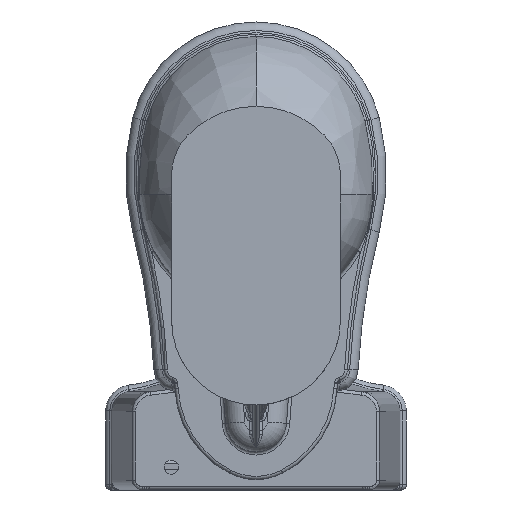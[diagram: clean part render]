
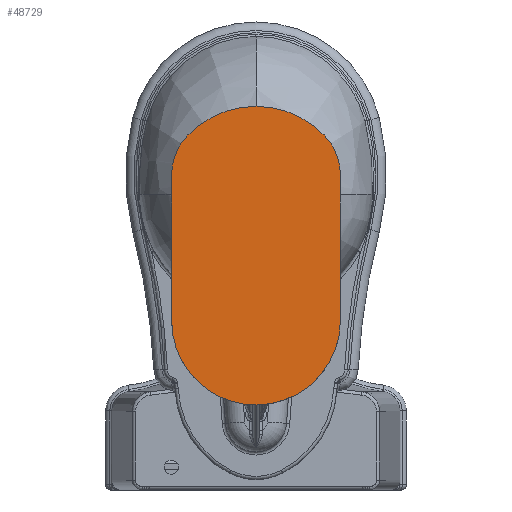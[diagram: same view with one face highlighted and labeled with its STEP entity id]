
A CAD part, front view. The second image highlights one B-rep face of the part: STEP entity #48729.
In plain terms, the highlighted planar face has unit normal (0, -1, 0).
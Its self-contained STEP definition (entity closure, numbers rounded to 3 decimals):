
#410 = CARTESIAN_POINT ( 'NONE',  ( -42.162, -420., 355.5 ) ) ;
#1134 = CARTESIAN_POINT ( 'NONE',  ( -104.853, -420., 417.025 ) ) ;
#3394 = CARTESIAN_POINT ( 'NONE',  ( -76.064, -420., 24.98 ) ) ;
#3866 = VERTEX_POINT ( 'NONE', #6999 ) ;
#4069 = CARTESIAN_POINT ( 'NONE',  ( 104.853, -420., 417.025 ) ) ;
#4114 = VECTOR ( 'NONE', #61659, 1000. ) ;
#4480 = CARTESIAN_POINT ( 'NONE',  ( 0., -420., 314.123 ) ) ;
#4523 = ORIENTED_EDGE ( 'NONE', *, *, #30294, .T. ) ;
#5141 = CARTESIAN_POINT ( 'NONE',  ( 130., -420., 131.035 ) ) ;
#5658 = LINE ( 'NONE', #56723, #4114 ) ;
#6406 = AXIS2_PLACEMENT_3D ( 'NONE', #410, #10819, #45407 ) ;
#6599 = VERTEX_POINT ( 'NONE', #61632 ) ;
#6999 = CARTESIAN_POINT ( 'NONE',  ( -130., -420., 355.5 ) ) ;
#8392 = CARTESIAN_POINT ( 'NONE',  ( -56.723, -420., 14.022 ) ) ;
#8782 = EDGE_CURVE ( 'NONE', #32080, #6599, #16071, .T. ) ;
#9223 = DIRECTION ( 'NONE',  ( 0., -1., 0. ) ) ;
#9498 = DIRECTION ( 'NONE',  ( 0., 0., -1. ) ) ;
#10819 = DIRECTION ( 'NONE',  ( 0., 1., 0. ) ) ;
#12890 = ORIENTED_EDGE ( 'NONE', *, *, #8782, .T. ) ;
#13181 = CARTESIAN_POINT ( 'NONE',  ( -123.151, -420., 89.319 ) ) ;
#13398 = CARTESIAN_POINT ( 'NONE',  ( -51.846, -420., 11.819 ) ) ;
#14729 = CIRCLE ( 'NONE', #48094, 146.912 ) ;
#15142 = DIRECTION ( 'NONE',  ( 0., 0., 1. ) ) ;
#16071 = LINE ( 'NONE', #5141, #55444 ) ;
#17728 = CARTESIAN_POINT ( 'NONE',  ( -130., -420., 122.42 ) ) ;
#18170 = CARTESIAN_POINT ( 'NONE',  ( -120.936, -420., 83.295 ) ) ;
#18384 = CARTESIAN_POINT ( 'NONE',  ( -50.366, -420., 11.187 ) ) ;
#18795 = CARTESIAN_POINT ( 'NONE',  ( 42.162, -420., 355.5 ) ) ;
#20050 = ORIENTED_EDGE ( 'NONE', *, *, #48348, .T. ) ;
#22054 = EDGE_CURVE ( 'NONE', #32032, #45940, #40006, .T. ) ;
#23130 = CARTESIAN_POINT ( 'NONE',  ( -110.832, -420., 62.117 ) ) ;
#23352 = CARTESIAN_POINT ( 'NONE',  ( -17.285, -420., 1.035 ) ) ;
#23764 = DIRECTION ( 'NONE',  ( 0., 0., -1. ) ) ;
#24140 = DIRECTION ( 'NONE',  ( 0., -1., 0. ) ) ;
#27924 = AXIS2_PLACEMENT_3D ( 'NONE', #18795, #53313, #23764 ) ;
#28075 = CARTESIAN_POINT ( 'NONE',  ( -97.886, -420., 45.371 ) ) ;
#30294 = EDGE_CURVE ( 'NONE', #3866, #32032, #5658, .T. ) ;
#32032 = VERTEX_POINT ( 'NONE', #34379 ) ;
#32080 = VERTEX_POINT ( 'NONE', #34596 ) ;
#32614 = CARTESIAN_POINT ( 'NONE',  ( -128.764, -420., 109.742 ) ) ;
#33035 = CARTESIAN_POINT ( 'NONE',  ( -85.89, -420., 33.07 ) ) ;
#33907 = EDGE_LOOP ( 'NONE', ( #50034, #20050, #12890, #59661, #53679, #56550, #4523 ) ) ;
#34379 = CARTESIAN_POINT ( 'NONE',  ( -130., -420., 131.035 ) ) ;
#34596 = CARTESIAN_POINT ( 'NONE',  ( 130., -420., 131.035 ) ) ;
#37792 = CARTESIAN_POINT ( 'NONE',  ( -130., -420., 131.035 ) ) ;
#38000 = CARTESIAN_POINT ( 'NONE',  ( -63.374, -420., 17.37 ) ) ;
#38588 = CIRCLE ( 'NONE', #27924, 87.838 ) ;
#38837 = CARTESIAN_POINT ( 'NONE',  ( -42.162, -420., 355.5 ) ) ;
#39094 = DIRECTION ( 'NONE',  ( 0., -1., 0. ) ) ;
#40006 = B_SPLINE_CURVE_WITH_KNOTS ( 'NONE', 3,
 ( #37792, #17728, #32614, #42777, #13181, #47738, #18170, #52689, #23130, #57606, #28075, #62568, #33035, #3394, #38000, #8392, #42993, #13398, #47950, #18384, #52898, #23352, #57819 ),
 .UNSPECIFIED., .F., .F.,
 ( 4, 1, 1, 2, 2, 1, 2, 2, 1, 1, 1, 1, 2, 2, 4 ),
 ( 0., 0.125, 0.188, 0.219, 0.25, 0.375, 0.438, 0.5, 0.625, 0.688, 0.719, 0.734, 0.742, 0.75, 1. ),
 .UNSPECIFIED. ) ;
#40429 = PLANE ( 'NONE',  #6406 ) ;
#40564 = EDGE_CURVE ( 'NONE', #6599, #59383, #38588, .T. ) ;
#42777 = CARTESIAN_POINT ( 'NONE',  ( -125.159, -420., 95.381 ) ) ;
#42993 = CARTESIAN_POINT ( 'NONE',  ( -53.321, -420., 12.463 ) ) ;
#43199 = EDGE_CURVE ( 'NONE', #59383, #51176, #14729, .T. ) ;
#43816 = DIRECTION ( 'NONE',  ( 0., 0., -1. ) ) ;
#45407 = DIRECTION ( 'NONE',  ( 0., 0., 1. ) ) ;
#45603 = EDGE_CURVE ( 'NONE', #51176, #3866, #47068, .T. ) ;
#45940 = VERTEX_POINT ( 'NONE', #48424 ) ;
#47068 = CIRCLE ( 'NONE', #57210, 87.838 ) ;
#47738 = CARTESIAN_POINT ( 'NONE',  ( -121.709, -420., 85.297 ) ) ;
#47950 = CARTESIAN_POINT ( 'NONE',  ( -50.859, -420., 11.395 ) ) ;
#48094 = AXIS2_PLACEMENT_3D ( 'NONE', #4480, #39094, #9498 ) ;
#48348 = EDGE_CURVE ( 'NONE', #45940, #32080, #48505, .T. ) ;
#48424 = CARTESIAN_POINT ( 'NONE',  ( 0., -420., 1.035 ) ) ;
#48505 = CIRCLE ( 'NONE', #55255, 130. ) ;
#48729 = ADVANCED_FACE ( 'NONE', ( #53874 ), #40429, .F. ) ;
#50034 = ORIENTED_EDGE ( 'NONE', *, *, #22054, .T. ) ;
#51176 = VERTEX_POINT ( 'NONE', #1134 ) ;
#52689 = CARTESIAN_POINT ( 'NONE',  ( -116.82, -420., 73.351 ) ) ;
#52898 = CARTESIAN_POINT ( 'NONE',  ( -33.907, -420., 4.35 ) ) ;
#53313 = DIRECTION ( 'NONE',  ( 0., -1., 0. ) ) ;
#53679 = ORIENTED_EDGE ( 'NONE', *, *, #43199, .T. ) ;
#53684 = CARTESIAN_POINT ( 'NONE',  ( 0., -420., 131.035 ) ) ;
#53874 = FACE_OUTER_BOUND ( 'NONE', #33907, .T. ) ;
#55255 = AXIS2_PLACEMENT_3D ( 'NONE', #53684, #24140, #58587 ) ;
#55444 = VECTOR ( 'NONE', #15142, 1000. ) ;
#56550 = ORIENTED_EDGE ( 'NONE', *, *, #45603, .T. ) ;
#56723 = CARTESIAN_POINT ( 'NONE',  ( -130., -420., 355.5 ) ) ;
#57210 = AXIS2_PLACEMENT_3D ( 'NONE', #38837, #9223, #43816 ) ;
#57606 = CARTESIAN_POINT ( 'NONE',  ( -103.274, -420., 51.929 ) ) ;
#57819 = CARTESIAN_POINT ( 'NONE',  ( 0., -420., 1.035 ) ) ;
#58587 = DIRECTION ( 'NONE',  ( 0., 0., -1. ) ) ;
#59383 = VERTEX_POINT ( 'NONE', #4069 ) ;
#59661 = ORIENTED_EDGE ( 'NONE', *, *, #40564, .T. ) ;
#61632 = CARTESIAN_POINT ( 'NONE',  ( 130., -420., 355.5 ) ) ;
#61659 = DIRECTION ( 'NONE',  ( 0., 0., -1. ) ) ;
#62568 = CARTESIAN_POINT ( 'NONE',  ( -95.016, -420., 42.206 ) ) ;
